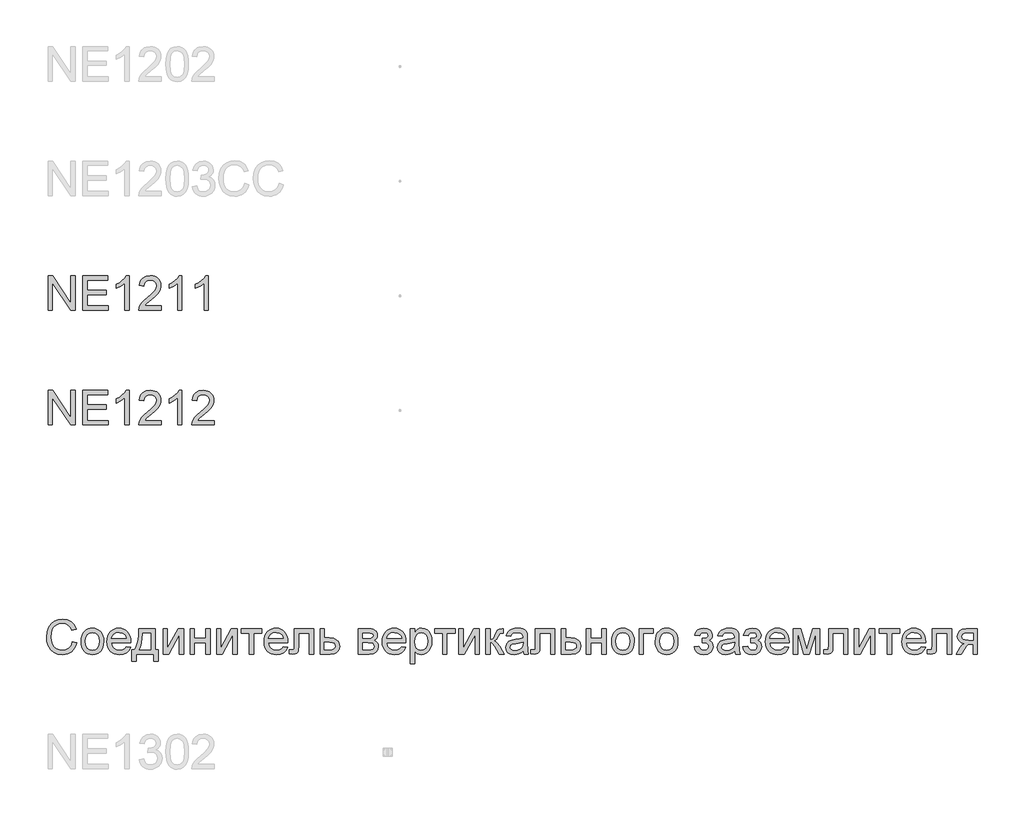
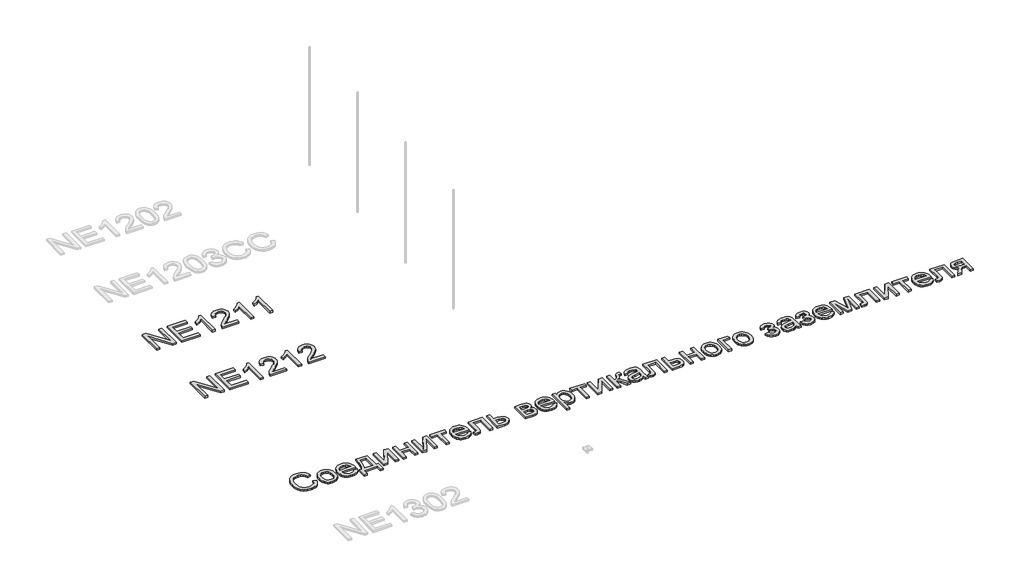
# One storey, part 50 of 124: 3 proxies.
"""IFC4 building model written with IfcOpenShell, lengths in millimetres."""

from ifc_helpers import new_model, si_unit, origin, origin_with_axes, place, context, project, spatial, polyline, outline, extrude, element, save

model = new_model("IFC4")

# Units and contexts
model_context = context("Model", 3, world=origin())
ifc_project = project(units=[si_unit("LENGTHUNIT", "METRE", prefix="MILLI")], contexts=[model_context])

# Site, building, storey
site = spatial("IfcSite", under=ifc_project)
building = spatial("IfcBuilding", under=site)
storey = spatial("IfcBuildingStorey", under=building, Name="Этаж 01", Elevation=0.0)

# Proxies
placement = place(None, origin())
element("IfcBuildingElementProxy", 1, Name="300", ObjectType="300", at=placement, inside=storey, context=model_context, shape_type="SweptSolid", body=[
    extrude(outline(polyline([(32939.8675381, -70074.498362), (32939.8675381, -69773.1294316), (32980.1874048, -69773.1294316), (33137.6408988, -70011.8848464), (33137.6408988, -69773.1294316), (33175.3120151, -69773.1294316), (33175.3120151, -70074.498362), (33134.9921484, -70074.498362), (32977.5386545, -69835.6693707), (32977.5386545, -70074.498362), (32939.8675381, -70074.498362)])), origin_with_axes(), (0.0, 0.0, 1.0), 20.0),
    extrude(outline(polyline([(33241.2364686, -70074.498362), (33241.2364686, -69773.1294316), (33457.8453874, -69773.1294316), (33457.8453874, -69810.8005479), (33278.9075849, -69810.8005479), (33278.9075849, -69900.2694491), (33448.4276083, -69900.2694491), (33448.4276083, -69937.9405654), (33278.9075849, -69937.9405654), (33278.9075849, -70036.8272457), (33462.5542769, -70036.8272457), (33462.5542769, -70074.498362), (33241.2364686, -70074.498362)])), origin_with_axes(), (0.0, 0.0, 1.0), 20.0),
    extrude(outline(polyline([(33646.2009689, -70074.498362), (33608.5298526, -70074.498362), (33608.5298526, -69839.6424963), (33572.8452991, -69865.0631421), (33533.18762, -69884.0826413), (33533.18762, -69848.4716642), (33562.7745294, -69832.3768269), (33588.4067074, -69813.228569), (33608.612626, -69792.8663006), (33621.9207572, -69773.1294316), (33646.2009689, -69773.1294316), (33646.2009689, -70074.498362)])), origin_with_axes(), (0.0, 0.0, 1.0), 20.0),
    extrude(outline(polyline([(33928.7343412, -70036.8272457), (33928.7343412, -70074.498362), (33730.9609806, -70074.498362), (33735.0076825, -70048.5258931), (33744.2967029, -70028.2280041), (33757.8899426, -70008.5371203), (33777.5532353, -69987.9265315), (33805.0524144, -69964.8695274), (33845.7033749, -69928.7619096), (33870.0939512, -69902.1088591), (33882.2892393, -69880.4773977), (33886.3543353, -69859.4345476), (33882.5191655, -69840.5713983), (33871.0136561, -69824.8904283), (33853.3277292, -69814.323018), (33830.9513069, -69810.8005479), (33807.4528444, -69814.2402445), (33789.1967004, -69824.5593345), (33777.4152795, -69840.9484774), (33773.3409864, -69862.5983328), (33735.6698701, -69857.8894432), (33744.8025406, -69821.4507316), (33753.3488992, -69806.9147943), (33764.5486067, -69794.8344693), (33778.1441457, -69785.3385153), (33793.8779988, -69778.555691), (33831.7606473, -69773.1294316), (33851.950471, -69774.6377477), (33869.9192072, -69779.1626963), (33885.6668559, -69786.7042772), (33899.193417, -69797.2624904), (33910.0574321, -69810.0555868), (33917.817443, -69824.3018171), (33922.4734495, -69840.0011812), (33924.0254516, -69857.1536793), (33922.3515886, -69875.1707), (33917.3299993, -69892.875021), (33908.418058, -69910.8828446), (33895.0731386, -69929.8103733), (33873.8003623, -69952.4075249), (33841.1048499, -69981.4242172), (33797.7683509, -70017.6605937), (33780.7722027, -70036.8272457), (33928.7343412, -70036.8272457)])), origin_with_axes(), (0.0, 0.0, 1.0), 20.0),
    extrude(outline(polyline([(34107.6721436, -70074.498362), (34070.0010273, -70074.498362), (34070.0010273, -69839.6424963), (34034.3164738, -69865.0631421), (33994.6587947, -69884.0826413), (33994.6587947, -69848.4716642), (34024.2457042, -69832.3768269), (34049.8778822, -69813.228569), (34070.0838008, -69792.8663006), (34083.391932, -69773.1294316), (34107.6721436, -69773.1294316), (34107.6721436, -70074.498362)])), origin_with_axes(), (0.0, 0.0, 1.0), 20.0),
    extrude(outline(polyline([(34338.407731, -70074.498362), (34300.7366147, -70074.498362), (34300.7366147, -69839.6424963), (34265.0520612, -69865.0631421), (34225.3943821, -69884.0826413), (34225.3943821, -69848.4716642), (34254.9812916, -69832.3768269), (34280.6134696, -69813.228569), (34300.8193882, -69792.8663006), (34314.1275193, -69773.1294316), (34338.407731, -69773.1294316), (34338.407731, -70074.498362)])), origin_with_axes(), (0.0, 0.0, 1.0), 20.0),
])
element("IfcBuildingElementProxy", 2, Name="300", ObjectType="300", at=placement, inside=storey, context=model_context, shape_type="SweptSolid", body=[
    extrude(outline(polyline([(32939.8675381, -71074.498362), (32939.8675381, -70773.1294316), (32980.1874048, -70773.1294316), (33137.6408988, -71011.8848464), (33137.6408988, -70773.1294316), (33175.3120151, -70773.1294316), (33175.3120151, -71074.498362), (33134.9921484, -71074.498362), (32977.5386545, -70835.6693707), (32977.5386545, -71074.498362), (32939.8675381, -71074.498362)])), origin_with_axes(), (0.0, 0.0, 1.0), 20.0),
    extrude(outline(polyline([(33241.2364686, -71074.498362), (33241.2364686, -70773.1294316), (33457.8453874, -70773.1294316), (33457.8453874, -70810.8005479), (33278.9075849, -70810.8005479), (33278.9075849, -70900.2694491), (33448.4276083, -70900.2694491), (33448.4276083, -70937.9405654), (33278.9075849, -70937.9405654), (33278.9075849, -71036.8272457), (33462.5542769, -71036.8272457), (33462.5542769, -71074.498362), (33241.2364686, -71074.498362)])), origin_with_axes(), (0.0, 0.0, 1.0), 20.0),
    extrude(outline(polyline([(33646.2009689, -71074.498362), (33608.5298526, -71074.498362), (33608.5298526, -70839.6424963), (33572.8452991, -70865.0631421), (33533.18762, -70884.0826413), (33533.18762, -70848.4716642), (33562.7745294, -70832.3768269), (33588.4067074, -70813.228569), (33608.612626, -70792.8663006), (33621.9207572, -70773.1294316), (33646.2009689, -70773.1294316), (33646.2009689, -71074.498362)])), origin_with_axes(), (0.0, 0.0, 1.0), 20.0),
    extrude(outline(polyline([(33928.7343412, -71036.8272457), (33928.7343412, -71074.498362), (33730.9609806, -71074.498362), (33735.0076825, -71048.5258931), (33744.2967029, -71028.2280041), (33757.8899426, -71008.5371203), (33777.5532353, -70987.9265315), (33805.0524144, -70964.8695274), (33845.7033749, -70928.7619096), (33870.0939512, -70902.1088591), (33882.2892393, -70880.4773977), (33886.3543353, -70859.4345476), (33882.5191655, -70840.5713983), (33871.0136561, -70824.8904283), (33853.3277292, -70814.323018), (33830.9513069, -70810.8005479), (33807.4528444, -70814.2402445), (33789.1967004, -70824.5593345), (33777.4152795, -70840.9484774), (33773.3409864, -70862.5983328), (33735.6698701, -70857.8894432), (33744.8025406, -70821.4507316), (33753.3488992, -70806.9147943), (33764.5486067, -70794.8344693), (33778.1441457, -70785.3385153), (33793.8779988, -70778.555691), (33831.7606473, -70773.1294316), (33851.950471, -70774.6377477), (33869.9192072, -70779.1626963), (33885.6668559, -70786.7042772), (33899.193417, -70797.2624904), (33910.0574321, -70810.0555868), (33917.817443, -70824.3018171), (33922.4734495, -70840.0011812), (33924.0254516, -70857.1536793), (33922.3515886, -70875.1707), (33917.3299993, -70892.875021), (33908.418058, -70910.8828446), (33895.0731386, -70929.8103733), (33873.8003623, -70952.4075249), (33841.1048499, -70981.4242172), (33797.7683509, -71017.6605937), (33780.7722027, -71036.8272457), (33928.7343412, -71036.8272457)])), origin_with_axes(), (0.0, 0.0, 1.0), 20.0),
    extrude(outline(polyline([(34107.6721436, -71074.498362), (34070.0010273, -71074.498362), (34070.0010273, -70839.6424963), (34034.3164738, -70865.0631421), (33994.6587947, -70884.0826413), (33994.6587947, -70848.4716642), (34024.2457042, -70832.3768269), (34049.8778822, -70813.228569), (34070.0838008, -70792.8663006), (34083.391932, -70773.1294316), (34107.6721436, -70773.1294316), (34107.6721436, -71074.498362)])), origin_with_axes(), (0.0, 0.0, 1.0), 20.0),
    extrude(outline(polyline([(34390.2055159, -71036.8272457), (34390.2055159, -71074.498362), (34192.4321553, -71074.498362), (34196.4788573, -71048.5258931), (34205.7678777, -71028.2280041), (34219.3611174, -71008.5371203), (34239.02441, -70987.9265315), (34266.5235892, -70964.8695274), (34307.1745496, -70928.7619096), (34331.5651259, -70902.1088591), (34343.760414, -70880.4773977), (34347.8255101, -70859.4345476), (34343.9903403, -70840.5713983), (34332.4848309, -70824.8904283), (34314.798904, -70814.323018), (34292.4224816, -70810.8005479), (34268.9240192, -70814.2402445), (34250.6678752, -70824.5593345), (34238.8864543, -70840.9484774), (34234.8121612, -70862.5983328), (34197.1410449, -70857.8894432), (34206.2737154, -70821.4507316), (34214.820074, -70806.9147943), (34226.0197815, -70794.8344693), (34239.6153205, -70785.3385153), (34255.3491736, -70778.555691), (34293.231822, -70773.1294316), (34313.4216458, -70774.6377477), (34331.390382, -70779.1626963), (34347.1380306, -70786.7042772), (34360.6645917, -70797.2624904), (34371.5286069, -70810.0555868), (34379.2886177, -70824.3018171), (34383.9446242, -70840.0011812), (34385.4966264, -70857.1536793), (34383.8227633, -70875.1707), (34378.8011741, -70892.875021), (34369.8892328, -70910.8828446), (34356.5443134, -70929.8103733), (34335.271537, -70952.4075249), (34302.5760247, -70981.4242172), (34259.2395257, -71017.6605937), (34242.2433775, -71036.8272457), (34390.2055159, -71036.8272457)])), origin_with_axes(), (0.0, 0.0, 1.0), 20.0),
])
element("IfcBuildingElementProxy", 3, Name="300", ObjectType="300", at=placement, inside=storey, context=model_context, shape_type="SweptSolid", body=[
    extrude(outline(polyline([(33151.7675674, -72967.371125), (33189.4386837, -72977.0832097), (33181.9844747, -73000.510395), (33172.0562594, -73020.9807288), (33159.6540376, -73038.494211), (33144.7778095, -73053.0508417), (33127.7632672, -73064.494271), (33108.9461031, -73072.6681491), (33088.3263173, -73077.5724759), (33065.9039097, -73079.2072515), (33022.2087257, -73074.2592387), (32987.5082565, -73059.4152002), (32960.9103883, -73035.1901708), (32941.5230071, -73002.0991854), (32929.6864039, -72963.1956644), (32925.7408695, -72921.5330284), (32930.2014387, -72877.5895241), (32943.5831463, -72839.6424963), (32965.1870165, -72808.8967585), (32994.3140734, -72786.5571244), (33028.8581928, -72772.9546876), (33066.7132501, -72768.420542), (33108.0172011, -72774.2882598), (33125.9859373, -72781.6229071), (33142.1658473, -72791.8914133), (33156.2902166, -72804.8224654), (33168.0923309, -72820.1447505), (33184.7297941, -72857.9630196), (33147.0586778, -72866.9393403), (33133.998867, -72839.4677523), (33116.1565902, -72820.6229971), (33093.3111183, -72809.724493), (33065.2417221, -72806.0916583), (33032.8865006, -72810.1199662), (33006.3070265, -72822.2048897), (32986.1378961, -72841.0772361), (32973.0137059, -72865.4678123), (32965.8124159, -72893.0405679), (32963.4119858, -72921.459452), (32966.2538743, -72956.2610888), (32974.7795395, -72986.353836), (32989.3108783, -73010.5880624), (33010.1697874, -73027.8141368), (33035.176566, -73038.1056356), (33062.1515133, -73041.5361352), (33093.5962269, -73036.8640339), (33119.798622, -73022.8477299), (33139.5814763, -72999.634376), (33151.7675674, -72967.371125)])), origin_with_axes(), (0.0, 0.0, 1.0), 20.0),
    extrude(outline(polyline([(33227.1098, -72963.8394579), (33229.1469465, -72935.1768519), (33235.2583862, -72910.4781745), (33245.4441189, -72889.7434255), (33259.7041448, -72872.972605), (33274.0607396, -72862.2534434), (33289.9072566, -72854.5968994), (33307.2436956, -72850.002973), (33326.0700567, -72848.4716642), (33346.8530902, -72850.336366), (33365.6449623, -72855.9304716), (33382.4456732, -72865.2539809), (33397.2552228, -72878.306894), (33409.3424456, -72894.6477523), (33417.9761761, -72913.8350977), (33423.1564145, -72935.8689299), (33424.8831606, -72960.7492491), (33421.82974, -72998.8066415), (33412.6694784, -73027.7773486), (33397.66909, -73049.4731893), (33377.0952894, -73065.7059823), (33352.6587279, -73075.8319342), (33326.0700567, -73079.2072515), (33304.9835206, -73077.3494475), (33286.0169045, -73071.7760352), (33269.1702083, -73062.4870149), (33254.4434322, -73049.4823863), (33242.4849681, -73032.9828788), (33233.943208, -73013.2092216), (33228.818152, -72990.1614146), (33227.1098, -72963.8394579)]), holes=[polyline([(33264.7809163, -72963.7658815), (33269.1403179, -72997.8593454), (33282.2185229, -73022.1487541), (33301.9002096, -73036.6892899), (33326.0700567, -73041.5361352), (33350.1295392, -73036.6616988), (33369.7744377, -73022.0383895), (33382.8526426, -72997.427084), (33387.2120443, -72962.5886591), (33382.8250515, -72929.4884766), (33369.6640731, -72905.5301616), (33349.9915834, -72890.9896258), (33326.0700567, -72886.1427805), (33301.9002096, -72890.9712317), (33282.2185229, -72905.4565852), (33269.1403179, -72929.6908117), (33264.7809163, -72963.7658815)])]), origin_with_axes(), (0.0, 0.0, 1.0), 20.0),
    extrude(outline(polyline([(33622.2150628, -73008.5739085), (33659.1504151, -73013.282798), (33645.8422839, -73041.1130709), (33624.6062958, -73061.9167978), (33595.9206972, -73074.8846381), (33560.2637348, -73079.2072515), (33536.8894325, -73077.3425497), (33516.0627131, -73071.7484441), (33497.7835765, -73062.4249348), (33482.0520226, -73049.3720217), (33469.4014805, -73032.9529884), (33460.365379, -73013.5311184), (33454.9437181, -72991.1064115), (33453.1364978, -72965.6788678), (33454.9621122, -72939.3891007), (33460.4389554, -72916.2171336), (33469.5670274, -72896.1629663), (33482.3463282, -72879.226599), (33498.0364953, -72865.771315), (33515.8971662, -72856.1603979), (33535.9283408, -72850.3938476), (33558.1300192, -72848.4716642), (33579.616627, -72850.3892491), (33599.0476942, -72856.1420038), (33616.4232206, -72865.7299283), (33631.7432065, -72879.1530226), (33644.2488951, -72896.0526017), (33653.1815297, -72916.0699808), (33658.5411106, -72939.2051598), (33660.3276375, -72965.4581386), (33660.1069083, -72975.6116817), (33490.8076141, -72975.6116817), (33497.3283225, -73003.8098366), (33512.4758636, -73024.5399871), (33534.3372512, -73037.2870982), (33560.9994988, -73041.5361352), (33581.0490675, -73039.5679666), (33597.9348511, -73033.6634605), (33611.6568495, -73023.4547352), (33622.2150628, -73008.5739085)]), holes=[polyline([(33490.8076141, -72937.9405654), (33622.6565212, -72937.9405654), (33617.5613556, -72918.0381495), (33607.5733594, -72903.8011162), (33585.6108043, -72890.5573644), (33557.9828664, -72886.1427805), (33532.5898117, -72889.6652506), (33511.5929469, -72900.2326609), (33496.9972287, -72916.7045772), (33490.8076141, -72937.9405654)])]), origin_with_axes(), (0.0, 0.0, 1.0), 20.0),
    extrude(outline(polyline([(33730.9609806, -72853.1805537), (33872.2276667, -72853.1805537), (33872.2276667, -73036.8272457), (33900.481004, -73036.8272457), (33900.481004, -73135.713926), (33862.8098876, -73135.713926), (33862.8098876, -73074.498362), (33707.4165329, -73074.498362), (33707.4165329, -73135.713926), (33669.7454166, -73135.713926), (33669.7454166, -73036.8272457), (33693.2898643, -73036.8272457), (33710.4055741, -73005.897567), (33722.3893301, -72964.979892), (33729.2411322, -72914.074221), (33730.9609806, -72853.1805537)]), holes=[polyline([(33763.9232073, -72890.85167), (33760.8329986, -72936.9748752), (33755.0940395, -72976.6785395), (33746.70633, -73009.962663), (33735.6698701, -73036.8272457), (33834.5565504, -73036.8272457), (33834.5565504, -72890.85167), (33763.9232073, -72890.85167)])]), origin_with_axes(), (0.0, 0.0, 1.0), 20.0),
    extrude(outline(polyline([(33942.8610098, -72853.1805537), (33980.5321261, -72853.1805537), (33980.5321261, -73021.9648131), (34073.0912361, -72853.1805537), (34121.7988123, -72853.1805537), (34121.7988123, -73074.498362), (34084.1276959, -73074.498362), (34084.1276959, -72906.7441722), (33992.1571972, -73074.498362), (33942.8610098, -73074.498362), (33942.8610098, -72853.1805537)])), origin_with_axes(), (0.0, 0.0, 1.0), 20.0),
    extrude(outline(polyline([(34178.3054867, -72853.1805537), (34215.976603, -72853.1805537), (34215.976603, -72937.9405654), (34314.8632833, -72937.9405654), (34314.8632833, -72853.1805537), (34352.5343996, -72853.1805537), (34352.5343996, -73074.498362), (34314.8632833, -73074.498362), (34314.8632833, -72975.6116817), (34215.976603, -72975.6116817), (34215.976603, -73074.498362), (34178.3054867, -73074.498362), (34178.3054867, -72853.1805537)])), origin_with_axes(), (0.0, 0.0, 1.0), 20.0),
    extrude(outline(polyline([(34409.0410741, -72853.1805537), (34446.7121904, -72853.1805537), (34446.7121904, -73021.9648131), (34539.2713004, -72853.1805537), (34587.9788765, -72853.1805537), (34587.9788765, -73074.498362), (34550.3077602, -73074.498362), (34550.3077602, -72906.7441722), (34458.3372614, -73074.498362), (34409.0410741, -73074.498362), (34409.0410741, -72853.1805537)])), origin_with_axes(), (0.0, 0.0, 1.0), 20.0),
    extrude(outline(polyline([(34625.6499928, -72853.1805537), (34804.5877953, -72853.1805537), (34804.5877953, -72890.85167), (34733.9544522, -72890.85167), (34733.9544522, -73074.498362), (34696.2833359, -73074.498362), (34696.2833359, -72890.85167), (34625.6499928, -72890.85167), (34625.6499928, -72853.1805537)])), origin_with_axes(), (0.0, 0.0, 1.0), 20.0),
    extrude(outline(polyline([(34992.5019184, -73008.5739085), (35029.4372708, -73013.282798), (35016.1291396, -73041.1130709), (34994.8931514, -73061.9167978), (34966.2075528, -73074.8846381), (34930.5505904, -73079.2072515), (34907.1762882, -73077.3425497), (34886.3495687, -73071.7484441), (34868.0704321, -73062.4249348), (34852.3388783, -73049.3720217), (34839.6883362, -73032.9529884), (34830.6522347, -73013.5311184), (34825.2305738, -72991.1064115), (34823.4233535, -72965.6788678), (34825.2489679, -72939.3891007), (34830.7258111, -72916.2171336), (34839.8538831, -72896.1629663), (34852.6331839, -72879.226599), (34868.323351, -72865.771315), (34886.1840218, -72856.1603979), (34906.2151965, -72850.3938476), (34928.4168749, -72848.4716642), (34949.9034827, -72850.3892491), (34969.3345498, -72856.1420038), (34986.7100763, -72865.7299283), (35002.0300621, -72879.1530226), (35014.5357507, -72896.0526017), (35023.4683854, -72916.0699808), (35028.8279662, -72939.2051598), (35030.6144931, -72965.4581386), (35030.3937639, -72975.6116817), (34861.0944698, -72975.6116817), (34867.6151781, -73003.8098366), (34882.7627193, -73024.5399871), (34904.6241068, -73037.2870982), (34931.2863544, -73041.5361352), (34951.3359232, -73039.5679666), (34968.2217068, -73033.6634605), (34981.9437052, -73023.4547352), (34992.5019184, -73008.5739085)]), holes=[polyline([(34861.0944698, -72937.9405654), (34992.9433768, -72937.9405654), (34987.8482112, -72918.0381495), (34977.860215, -72903.8011162), (34955.8976599, -72890.5573644), (34928.2697221, -72886.1427805), (34902.8766674, -72889.6652506), (34881.8798025, -72900.2326609), (34867.2840843, -72916.7045772), (34861.0944698, -72937.9405654)])]), origin_with_axes(), (0.0, 0.0, 1.0), 20.0),
    extrude(outline(polyline([(35087.1211676, -72853.1805537), (35256.641191, -72853.1805537), (35256.641191, -73074.2776328), (35218.9700747, -73074.2776328), (35218.9700747, -72890.85167), (35124.7922839, -72890.85167), (35124.7922839, -72996.4338026), (35122.2538981, -73045.1413788), (35117.4990233, -73056.1686416), (35108.3111705, -73065.7059823), (35094.3684429, -73072.3002671), (35075.3489438, -73074.498362), (35044.7411618, -73072.5853756), (35044.7411618, -73036.8272457), (35061.5901571, -73036.8272457), (35078.6230935, -73034.5095891), (35085.4289104, -73027.1519492), (35087.1211676, -72994.3000871), (35087.1211676, -72853.1805537)])), origin_with_axes(), (0.0, 0.0, 1.0), 20.0),
    extrude(outline(polyline([(35313.1478654, -72853.1805537), (35350.8189817, -72853.1805537), (35350.8189817, -72933.2316759), (35394.2290572, -72933.2316759), (35431.8633853, -72937.9497624), (35447.0109264, -72943.8473707), (35459.7120523, -72952.1040222), (35469.7552308, -72962.4346085), (35476.9289297, -72974.554021), (35482.6678888, -73004.1593245), (35477.7842553, -73031.1158777), (35463.1333549, -73053.8601821), (35451.9014577, -73062.8893858), (35437.7403002, -73069.338817), (35400.6302039, -73074.498362), (35313.1478654, -73074.498362), (35313.1478654, -72853.1805537)]), holes=[polyline([(35350.8189817, -73036.8272457), (35385.9885005, -73036.8272457), (35413.2761475, -73034.84988), (35431.4219269, -73028.9177828), (35441.6030611, -73018.7918309), (35444.9967725, -73004.2329009), (35442.4859779, -72991.9272482), (35434.953594, -72981.0563352), (35418.8127715, -72973.4411779), (35390.4766608, -72970.9027922), (35350.8189817, -72970.9027922), (35350.8189817, -73036.8272457)])]), origin_with_axes(), (0.0, 0.0, 1.0), 20.0),
    extrude(outline(polyline([(35647.4790227, -72853.1805537), (35730.4732008, -72853.1805537), (35757.1538425, -72854.4405495), (35775.9802036, -72858.220537), (35789.8309607, -72865.3574477), (35801.5847904, -72876.6882132), (35809.613815, -72891.4494783), (35812.2901565, -72908.8778878), (35810.6714757, -72922.9217829), (35805.8154334, -72935.0342976), (35797.7036354, -72945.2706141), (35786.3176876, -72953.6859148), (35800.2604152, -72961.5126042), (35811.6279689, -72974.1033655), (35819.1879439, -72990.4649173), (35821.7079356, -73009.6039781), (35815.3251829, -73038.3171678), (35800.1500506, -73058.5322834), (35776.1273564, -73070.5068424), (35743.2019178, -73074.498362), (35647.4790227, -73074.498362), (35647.4790227, -72853.1805537)]), holes=[polyline([(35685.150139, -72937.9405654), (35722.3797969, -72937.9405654), (35753.0979435, -72936.027579), (35768.0339525, -72928.3756335), (35772.9727683, -72922.0480632), (35774.6190402, -72914.5432705), (35771.7311665, -72903.3044755), (35763.0675455, -72896.0755943), (35747.4141666, -72892.1576511), (35723.5570193, -72890.85167), (35685.150139, -72890.85167), (35685.150139, -72937.9405654)]), polyline([(35685.150139, -73036.8272457), (35731.3561176, -73036.8272457), (35756.5376401, -73035.1257915), (35772.3381718, -73030.0214288), (35780.8178518, -73020.7416055), (35784.0368193, -73006.5137693), (35782.4273355, -72997.0867932), (35777.5988843, -72988.3771869), (35770.1860621, -72981.562173), (35760.8234654, -72977.8189737), (35727.6772976, -72975.6116817), (35685.150139, -72975.6116817), (35685.150139, -73036.8272457)])]), origin_with_axes(), (0.0, 0.0, 1.0), 20.0),
    extrude(outline(polyline([(36023.7487273, -73008.5739085), (36060.6840796, -73013.282798), (36047.3759485, -73041.1130709), (36026.1399603, -73061.9167978), (35997.4543617, -73074.8846381), (35961.7973993, -73079.2072515), (35938.4230971, -73077.3425497), (35917.5963776, -73071.7484441), (35899.317241, -73062.4249348), (35883.5856872, -73049.3720217), (35870.935145, -73032.9529884), (35861.8990435, -73013.5311184), (35856.4773826, -72991.1064115), (35854.6701623, -72965.6788678), (35856.4957767, -72939.3891007), (35861.9726199, -72916.2171336), (35871.1006919, -72896.1629663), (35883.8799928, -72879.226599), (35899.5701598, -72865.771315), (35917.4308307, -72856.1603979), (35937.4620053, -72850.3938476), (35959.6636838, -72848.4716642), (35981.1502915, -72850.3892491), (36000.5813587, -72856.1420038), (36017.9568852, -72865.7299283), (36033.276871, -72879.1530226), (36045.7825596, -72896.0526017), (36054.7151943, -72916.0699808), (36060.0747751, -72939.2051598), (36061.861302, -72965.4581386), (36061.6405728, -72975.6116817), (35892.3412786, -72975.6116817), (35898.861987, -73003.8098366), (35914.0095282, -73024.5399871), (35935.8709157, -73037.2870982), (35962.5331633, -73041.5361352), (35982.5827321, -73039.5679666), (35999.4685156, -73033.6634605), (36013.1905141, -73023.4547352), (36023.7487273, -73008.5739085)]), holes=[polyline([(35892.3412786, -72937.9405654), (36024.1901857, -72937.9405654), (36019.0950201, -72918.0381495), (36009.1070239, -72903.8011162), (35987.1444688, -72890.5573644), (35959.516531, -72886.1427805), (35934.1234762, -72889.6652506), (35913.1266114, -72900.2326609), (35898.5308932, -72916.7045772), (35892.3412786, -72937.9405654)])]), origin_with_axes(), (0.0, 0.0, 1.0), 20.0),
    extrude(outline(polyline([(36099.5324183, -73159.2583737), (36099.5324183, -72853.1805537), (36137.2035346, -72853.1805537), (36137.2035346, -72890.115906), (36149.4907933, -72871.8965502), (36163.2495799, -72858.8827246), (36179.2892349, -72851.0744293), (36198.4190986, -72848.4716642), (36223.8949268, -72852.1136959), (36246.1701816, -72863.0397912), (36264.306764, -72880.5877623), (36277.3665748, -72904.0954218), (36285.2576436, -72931.8521184), (36287.8879999, -72962.1472007), (36284.9173527, -72994.3644664), (36276.0054114, -73023.1788237), (36261.4372844, -73047.1279416), (36241.4980803, -73064.7494891), (36218.2755293, -73075.5928109), (36193.8573619, -73079.2072515), (36176.539317, -73076.7884274), (36161.0790761, -73069.5319551), (36147.8445213, -73058.5782687), (36137.2035346, -73045.0678024), (36137.2035346, -73159.2583737), (36099.5324183, -73159.2583737)]), holes=[polyline([(36137.2035346, -72965.6052914), (36141.2778277, -72999.3768586), (36153.500707, -73022.9948827), (36171.5361218, -73036.9008221), (36193.0480215, -73041.5361352), (36214.9094091, -73036.7352752), (36233.4046764, -73022.3326951), (36246.0138318, -72997.8501483), (36250.2168835, -72962.8093883), (36246.1149993, -72929.2217621), (36233.8093466, -72905.2726442), (36215.8015229, -72890.9252464), (36194.5931259, -72886.1427805), (36173.3019554, -72891.2287491), (36154.604353, -72906.4866548), (36141.5537392, -72931.4382511), (36137.2035346, -72965.6052914)])]), origin_with_axes(), (0.0, 0.0, 1.0), 20.0),
    extrude(outline(polyline([(36311.4324475, -72853.1805537), (36490.37025, -72853.1805537), (36490.37025, -72890.85167), (36419.7369069, -72890.85167), (36419.7369069, -73074.498362), (36382.0657906, -73074.498362), (36382.0657906, -72890.85167), (36311.4324475, -72890.85167), (36311.4324475, -72853.1805537)])), origin_with_axes(), (0.0, 0.0, 1.0), 20.0),
    extrude(outline(polyline([(36523.3324768, -72853.1805537), (36561.0035931, -72853.1805537), (36561.0035931, -73021.9648131), (36653.5627031, -72853.1805537), (36702.2702792, -72853.1805537), (36702.2702792, -73074.498362), (36664.5991629, -73074.498362), (36664.5991629, -72906.7441722), (36572.6286641, -73074.498362), (36523.3324768, -73074.498362), (36523.3324768, -72853.1805537)])), origin_with_axes(), (0.0, 0.0, 1.0), 20.0),
    extrude(outline(polyline([(36758.7769537, -72853.1805537), (36796.44807, -72853.1805537), (36796.44807, -72947.3583445), (36811.7703551, -72945.6660873), (36821.6847749, -72940.5893158), (36830.4587604, -72927.3455639), (36842.359743, -72901.1523659), (36859.5398322, -72867.1232813), (36874.6965704, -72856.0500333), (36902.2509318, -72853.1805537), (36909.4614189, -72853.1805537), (36909.4614189, -72891.0723992), (36899.3078758, -72890.85167), (36880.9137761, -72894.8247956), (36867.9643298, -72919.620042), (36852.7708034, -72946.4386395), (36831.4704359, -72959.5720267), (36843.4082067, -72964.874126), (36855.2356128, -72974.2321242), (36878.5593313, -73005.1158177), (36918.879198, -73074.498362), (36876.0577337, -73074.498362), (36836.5472075, -73006.5873457), (36816.6815797, -72977.8557619), (36807.3925593, -72972.6410346), (36796.44807, -72970.9027922), (36796.44807, -73074.498362), (36758.7769537, -73074.498362), (36758.7769537, -72853.1805537)])), origin_with_axes(), (0.0, 0.0, 1.0), 20.0),
    extrude(outline(polyline([(37083.6903318, -73046.2450248), (37065.6917052, -73061.6776745), (37047.1596497, -73071.7760352), (37027.671101, -73077.3494475), (37006.8029948, -73079.2072515), (36975.3214931, -73074.7374853), (36952.0989421, -73061.3281866), (36937.7791355, -73040.9659181), (36933.0058666, -73015.6372428), (36934.8084884, -73000.0206521), (36940.2163537, -72985.8388012), (36948.5580779, -72973.6986953), (36959.1622765, -72964.2073398), (36985.5394155, -72951.8465048), (37018.1337603, -72946.1811221), (37056.6510052, -72940.2214338), (37083.4696026, -72933.2316759), (37083.6903318, -72924.8439664), (37081.0967638, -72908.0317592), (37073.3160596, -72897.0320875), (37055.9152412, -72888.8651072), (37031.6718177, -72886.1427805), (37009.231016, -72887.9545993), (36993.559243, -72893.3900558), (36982.872271, -72903.4424313), (36975.3858724, -72919.1050072), (36937.7147561, -72914.3961177), (36944.2538586, -72893.794726), (36954.0119285, -72877.6079182), (36967.8994738, -72865.228689), (36986.8270025, -72856.0500333), (37009.975977, -72850.3662564), (37036.52786, -72848.4716642), (37061.9944912, -72850.1455272), (37082.1820156, -72855.1671165), (37097.4031332, -72862.7178944), (37107.9705435, -72871.9793237), (37114.9786955, -72883.4296508), (37119.5220382, -72897.5471223), (37121.3614481, -72930.5093491), (37121.3614481, -72977.3775153), (37123.2744345, -73042.8237222), (37130.7792272, -73074.498362), (37093.1081109, -73074.498362), (37083.6903318, -73046.2450248)]), holes=[polyline([(37083.6903318, -72970.9027922), (37022.9162262, -72982.4542868), (36990.5058224, -72988.5611279), (36975.8273308, -72998.4939418), (36970.6769829, -73012.9884924), (36973.4820831, -73024.1904992), (36981.8973838, -73033.3691549), (36995.7389438, -73039.4943902), (37014.8228223, -73041.5361352), (37035.0563321, -73039.282858), (37052.935397, -73032.5230264), (37067.4299476, -73022.5626213), (37077.5099143, -73010.707624), (37081.9796805, -72998.4939418), (37083.4696026, -72981.57137), (37083.6903318, -72970.9027922)])]), origin_with_axes(), (0.0, 0.0, 1.0), 20.0),
    extrude(outline(polyline([(37191.9947912, -72853.1805537), (37361.5148146, -72853.1805537), (37361.5148146, -73074.2776328), (37323.8436983, -73074.2776328), (37323.8436983, -72890.85167), (37229.6659075, -72890.85167), (37229.6659075, -72996.4338026), (37227.1275217, -73045.1413788), (37222.372647, -73056.1686416), (37213.1847941, -73065.7059823), (37199.2420665, -73072.3002671), (37180.2225674, -73074.498362), (37149.6147854, -73072.5853756), (37149.6147854, -73036.8272457), (37166.4637807, -73036.8272457), (37183.4967171, -73034.5095891), (37190.302534, -73027.1519492), (37191.9947912, -72994.3000871), (37191.9947912, -72853.1805537)])), origin_with_axes(), (0.0, 0.0, 1.0), 20.0),
    extrude(outline(polyline([(37418.021489, -72853.1805537), (37455.6926053, -72853.1805537), (37455.6926053, -72933.2316759), (37499.1026808, -72933.2316759), (37536.7370089, -72937.9497624), (37551.88455, -72943.8473707), (37564.5856759, -72952.1040222), (37574.6288544, -72962.4346085), (37581.8025533, -72974.554021), (37587.5415124, -73004.1593245), (37582.6578789, -73031.1158777), (37568.0069785, -73053.8601821), (37556.7750813, -73062.8893858), (37542.6139238, -73069.338817), (37505.5038275, -73074.498362), (37418.021489, -73074.498362), (37418.021489, -72853.1805537)]), holes=[polyline([(37455.6926053, -73036.8272457), (37490.8621241, -73036.8272457), (37518.1497711, -73034.84988), (37536.2955505, -73028.9177828), (37546.4766847, -73018.7918309), (37549.8703961, -73004.2329009), (37547.3596015, -72991.9272482), (37539.8272176, -72981.0563352), (37523.6863951, -72973.4411779), (37495.3502844, -72970.9027922), (37455.6926053, -72970.9027922), (37455.6926053, -73036.8272457)])]), origin_with_axes(), (0.0, 0.0, 1.0), 20.0),
    extrude(outline(polyline([(37634.6304078, -72853.1805537), (37672.3015241, -72853.1805537), (37672.3015241, -72937.9405654), (37771.1882044, -72937.9405654), (37771.1882044, -72853.1805537), (37808.8593207, -72853.1805537), (37808.8593207, -73074.498362), (37771.1882044, -73074.498362), (37771.1882044, -72975.6116817), (37672.3015241, -72975.6116817), (37672.3015241, -73074.498362), (37634.6304078, -73074.498362), (37634.6304078, -72853.1805537)])), origin_with_axes(), (0.0, 0.0, 1.0), 20.0),
    extrude(outline(polyline([(37855.9482161, -72963.8394579), (37857.9853626, -72935.1768519), (37864.0968023, -72910.4781745), (37874.282535, -72889.7434255), (37888.5425609, -72872.972605), (37902.8991557, -72862.2534434), (37918.7456727, -72854.5968994), (37936.0821117, -72850.002973), (37954.9084728, -72848.4716642), (37975.6915063, -72850.336366), (37994.4833784, -72855.9304716), (38011.2840893, -72865.2539809), (38026.0936389, -72878.306894), (38038.1808617, -72894.6477523), (38046.8145922, -72913.8350977), (38051.9948306, -72935.8689299), (38053.7215767, -72960.7492491), (38050.6681561, -72998.8066415), (38041.5078945, -73027.7773486), (38026.5075061, -73049.4731893), (38005.9337055, -73065.7059823), (37981.497144, -73075.8319342), (37954.9084728, -73079.2072515), (37933.8219367, -73077.3494475), (37914.8553206, -73071.7760352), (37898.0086245, -73062.4870149), (37883.2818483, -73049.4823863), (37871.3233842, -73032.9828788), (37862.7816242, -73013.2092216), (37857.6565681, -72990.1614146), (37855.9482161, -72963.8394579)]), holes=[polyline([(37893.6193324, -72963.7658815), (37897.978734, -72997.8593454), (37911.056939, -73022.1487541), (37930.7386257, -73036.6892899), (37954.9084728, -73041.5361352), (37978.9679553, -73036.6616988), (37998.6128538, -73022.0383895), (38011.6910588, -72997.427084), (38016.0504604, -72962.5886591), (38011.6634676, -72929.4884766), (37998.5024892, -72905.5301616), (37978.8299995, -72890.9896258), (37954.9084728, -72886.1427805), (37930.7386257, -72890.9712317), (37911.056939, -72905.4565852), (37897.978734, -72929.6908117), (37893.6193324, -72963.7658815)])]), origin_with_axes(), (0.0, 0.0, 1.0), 20.0),
    extrude(outline(polyline([(38096.1015825, -72853.1805537), (38218.5327105, -72853.1805537), (38218.5327105, -72890.85167), (38133.7726989, -72890.85167), (38133.7726989, -73074.498362), (38096.1015825, -73074.498362), (38096.1015825, -72853.1805537)])), origin_with_axes(), (0.0, 0.0, 1.0), 20.0),
    extrude(outline(polyline([(38237.3682687, -72963.8394579), (38239.4054152, -72935.1768519), (38245.5168549, -72910.4781745), (38255.7025876, -72889.7434255), (38269.9626135, -72872.972605), (38284.3192083, -72862.2534434), (38300.1657253, -72854.5968994), (38317.5021643, -72850.002973), (38336.3285254, -72848.4716642), (38357.1115589, -72850.336366), (38375.903431, -72855.9304716), (38392.7041419, -72865.2539809), (38407.5136915, -72878.306894), (38419.6009143, -72894.6477523), (38428.2346448, -72913.8350977), (38433.4148832, -72935.8689299), (38435.1416293, -72960.7492491), (38432.0882087, -72998.8066415), (38422.9279471, -73027.7773486), (38407.9275587, -73049.4731893), (38387.3537581, -73065.7059823), (38362.9171966, -73075.8319342), (38336.3285254, -73079.2072515), (38315.2419893, -73077.3494475), (38296.2753732, -73071.7760352), (38279.4286771, -73062.4870149), (38264.7019009, -73049.4823863), (38252.7434368, -73032.9828788), (38244.2016768, -73013.2092216), (38239.0766207, -72990.1614146), (38237.3682687, -72963.8394579)]), holes=[polyline([(38275.039385, -72963.7658815), (38279.3987866, -72997.8593454), (38292.4769916, -73022.1487541), (38312.1586783, -73036.6892899), (38336.3285254, -73041.5361352), (38360.3880079, -73036.6616988), (38380.0329064, -73022.0383895), (38393.1111114, -72997.427084), (38397.470513, -72962.5886591), (38393.0835202, -72929.4884766), (38379.9225418, -72905.5301616), (38360.2500521, -72890.9896258), (38336.3285254, -72886.1427805), (38312.1586783, -72890.9712317), (38292.4769916, -72905.4565852), (38279.3987866, -72929.6908117), (38275.039385, -72963.7658815)])]), origin_with_axes(), (0.0, 0.0, 1.0), 20.0),
    extrude(outline(polyline([(38647.0416585, -72975.6116817), (38647.0416585, -72937.9405654), (38676.7665237, -72936.4690374), (38691.7761091, -72928.6331509), (38697.0736099, -72921.2847081), (38698.8394434, -72912.2624021), (38696.4758016, -72901.547839), (38689.3848762, -72893.242903), (38678.5599485, -72887.9178111), (38664.9942999, -72886.1427805), (38651.2814985, -72887.908614), (38639.7943832, -72893.2061148), (38630.532954, -72902.0352827), (38623.4972108, -72914.3961177), (38581.117205, -72909.6872282), (38592.3559999, -72882.9054189), (38609.4441186, -72863.7755552), (38632.381561, -72852.2976369), (38661.1683271, -72848.4716642), (38692.6590259, -72853.1345685), (38716.4977792, -72867.1232813), (38731.5073646, -72887.5867173), (38736.5105598, -72911.6737909), (38734.7309306, -72924.034626), (38729.3920431, -72935.0710858), (38720.4938974, -72944.7831705), (38708.0364933, -72953.17088), (38722.5770292, -72963.6371228), (38732.9421044, -72976.6417513), (38739.1501131, -72992.2215538), (38741.2194493, -73010.4133184), (38735.9679338, -73038.1424238), (38720.2133874, -73060.114176), (38695.0226677, -73074.4339827), (38661.4626327, -73079.2072515), (38628.6383617, -73074.7926676), (38603.5212185, -73061.5489158), (38586.1112031, -73039.4759961), (38576.4083154, -73008.5739085), (38618.7883213, -73003.8650189), (38625.1342857, -73019.7943093), (38635.7844695, -73031.6768978), (38649.5064679, -73039.0713259), (38665.0678763, -73041.5361352), (38680.2246145, -73039.1724934), (38692.5854495, -73032.081568), (38700.8076121, -73021.3118225), (38703.548333, -73007.9117209), (38701.8468788, -72997.2983253), (38696.7425161, -72988.1196695), (38682.2479655, -72977.5246681), (38654.3992984, -72975.3909525), (38647.0416585, -72975.6116817)])), origin_with_axes(), (0.0, 0.0, 1.0), 20.0),
    extrude(outline(polyline([(38929.5750308, -73046.2450248), (38911.5764042, -73061.6776745), (38893.0443487, -73071.7760352), (38873.5558, -73077.3494475), (38852.6876938, -73079.2072515), (38821.2061921, -73074.7374853), (38797.9836411, -73061.3281866), (38783.6638345, -73040.9659181), (38778.8905656, -73015.6372428), (38780.6931874, -73000.0206521), (38786.1010527, -72985.8388012), (38794.4427769, -72973.6986953), (38805.0469755, -72964.2073398), (38831.4241145, -72951.8465048), (38864.0184593, -72946.1811221), (38902.5357042, -72940.2214338), (38929.3543016, -72933.2316759), (38929.5750308, -72924.8439664), (38926.9814628, -72908.0317592), (38919.2007586, -72897.0320875), (38901.7999402, -72888.8651072), (38877.5565167, -72886.1427805), (38855.115715, -72887.9545993), (38839.443942, -72893.3900558), (38828.75697, -72903.4424313), (38821.2705714, -72919.1050072), (38783.5994551, -72914.3961177), (38790.1385576, -72893.794726), (38799.8966275, -72877.6079182), (38813.7841728, -72865.228689), (38832.7117015, -72856.0500333), (38855.860676, -72850.3662564), (38882.412559, -72848.4716642), (38907.8791902, -72850.1455272), (38928.0667146, -72855.1671165), (38943.2878322, -72862.7178944), (38953.8552425, -72871.9793237), (38960.8633945, -72883.4296508), (38965.4067371, -72897.5471223), (38967.2461471, -72930.5093491), (38967.2461471, -72977.3775153), (38969.1591335, -73042.8237222), (38976.6639262, -73074.498362), (38938.9928099, -73074.498362), (38929.5750308, -73046.2450248)]), holes=[polyline([(38929.5750308, -72970.9027922), (38868.8009252, -72982.4542868), (38836.3905214, -72988.5611279), (38821.7120298, -72998.4939418), (38816.5616819, -73012.9884924), (38819.3667821, -73024.1904992), (38827.7820828, -73033.3691549), (38841.6236428, -73039.4943902), (38860.7075213, -73041.5361352), (38880.9410311, -73039.282858), (38898.820096, -73032.5230264), (38913.3146466, -73022.5626213), (38923.3946133, -73010.707624), (38927.8643795, -72998.4939418), (38929.3543016, -72981.57137), (38929.5750308, -72970.9027922)])]), origin_with_axes(), (0.0, 0.0, 1.0), 20.0),
    extrude(outline(polyline([(39070.841717, -72975.6116817), (39070.841717, -72937.9405654), (39100.5665822, -72936.4690374), (39115.5761676, -72928.6331509), (39120.8736683, -72921.2847081), (39122.6395019, -72912.2624021), (39120.2758601, -72901.547839), (39113.1849346, -72893.242903), (39102.3600069, -72887.9178111), (39088.7943583, -72886.1427805), (39075.081557, -72887.908614), (39063.5944417, -72893.2061148), (39054.3330124, -72902.0352827), (39047.2972693, -72914.3961177), (39004.9172634, -72909.6872282), (39016.1560584, -72882.9054189), (39033.2441771, -72863.7755552), (39056.1816195, -72852.2976369), (39084.9683856, -72848.4716642), (39116.4590844, -72853.1345685), (39140.2978377, -72867.1232813), (39155.3074231, -72887.5867173), (39160.3106182, -72911.6737909), (39158.530989, -72924.034626), (39153.1921016, -72935.0710858), (39144.2939558, -72944.7831705), (39131.8365518, -72953.17088), (39146.3770876, -72963.6371228), (39156.7421628, -72976.6417513), (39162.9501715, -72992.2215538), (39165.0195077, -73010.4133184), (39159.7679923, -73038.1424238), (39144.0134458, -73060.114176), (39118.8227262, -73074.4339827), (39085.2626912, -73079.2072515), (39052.4384202, -73074.7926676), (39027.3212769, -73061.5489158), (39009.9112615, -73039.4759961), (39000.2083739, -73008.5739085), (39042.5883797, -73003.8650189), (39048.9343442, -73019.7943093), (39059.5845279, -73031.6768978), (39073.3065263, -73039.0713259), (39088.8679347, -73041.5361352), (39104.0246729, -73039.1724934), (39116.385508, -73032.081568), (39124.6076706, -73021.3118225), (39127.3483914, -73007.9117209), (39125.6469372, -72997.2983253), (39120.5425745, -72988.1196695), (39106.0480239, -72977.5246681), (39078.1993569, -72975.3909525), (39070.841717, -72975.6116817)])), origin_with_axes(), (0.0, 0.0, 1.0), 20.0),
    extrude(outline(polyline([(39367.0602995, -73008.5739085), (39403.9956518, -73013.282798), (39390.6875206, -73041.1130709), (39369.4515325, -73061.9167978), (39340.7659339, -73074.8846381), (39305.1089715, -73079.2072515), (39281.7346692, -73077.3425497), (39260.9079498, -73071.7484441), (39242.6288131, -73062.4249348), (39226.8972593, -73049.3720217), (39214.2467172, -73032.9529884), (39205.2106157, -73013.5311184), (39199.7889548, -72991.1064115), (39197.9817345, -72965.6788678), (39199.8073489, -72939.3891007), (39205.2841921, -72916.2171336), (39214.4122641, -72896.1629663), (39227.1915649, -72879.226599), (39242.881732, -72865.771315), (39260.7424029, -72856.1603979), (39280.7735775, -72850.3938476), (39302.9752559, -72848.4716642), (39324.4618637, -72850.3892491), (39343.8929308, -72856.1420038), (39361.2684573, -72865.7299283), (39376.5884432, -72879.1530226), (39389.0941317, -72896.0526017), (39398.0267664, -72916.0699808), (39403.3863472, -72939.2051598), (39405.1728742, -72965.4581386), (39404.952145, -72975.6116817), (39235.6528508, -72975.6116817), (39242.1735592, -73003.8098366), (39257.3211003, -73024.5399871), (39279.1824879, -73037.2870982), (39305.8447355, -73041.5361352), (39325.8943042, -73039.5679666), (39342.7800878, -73033.6634605), (39356.5020862, -73023.4547352), (39367.0602995, -73008.5739085)]), holes=[polyline([(39235.6528508, -72937.9405654), (39367.5017579, -72937.9405654), (39362.4065922, -72918.0381495), (39352.4185961, -72903.8011162), (39330.456041, -72890.5573644), (39302.8281031, -72886.1427805), (39277.4350484, -72889.6652506), (39256.4381835, -72900.2326609), (39241.8424654, -72916.7045772), (39235.6528508, -72937.9405654)])]), origin_with_axes(), (0.0, 0.0, 1.0), 20.0),
    extrude(outline(polyline([(39442.8439905, -72853.1805537), (39507.664798, -72853.1805537), (39557.623173, -73030.3525226), (39611.4810971, -72853.1805537), (39673.5795779, -72853.1805537), (39673.5795779, -73074.498362), (39635.9084616, -73074.498362), (39635.9084616, -72896.2963235), (39581.7562319, -73074.498362), (39532.3128917, -73074.498362), (39480.5151068, -72887.7614613), (39480.5151068, -73074.498362), (39442.8439905, -73074.498362), (39442.8439905, -72853.1805537)])), origin_with_axes(), (0.0, 0.0, 1.0), 20.0),
    extrude(outline(polyline([(39748.9218105, -72853.1805537), (39918.4418339, -72853.1805537), (39918.4418339, -73074.2776328), (39880.7707175, -73074.2776328), (39880.7707175, -72890.85167), (39786.5929268, -72890.85167), (39786.5929268, -72996.4338026), (39784.054541, -73045.1413788), (39779.2996662, -73056.1686416), (39770.1118134, -73065.7059823), (39756.1690858, -73072.3002671), (39737.1495866, -73074.498362), (39706.5418046, -73072.5853756), (39706.5418046, -73036.8272457), (39723.3908, -73036.8272457), (39740.4237364, -73034.5095891), (39747.2295533, -73027.1519492), (39748.9218105, -72994.3000871), (39748.9218105, -72853.1805537)])), origin_with_axes(), (0.0, 0.0, 1.0), 20.0),
    extrude(outline(polyline([(39974.9485083, -72853.1805537), (40012.6196246, -72853.1805537), (40012.6196246, -73021.9648131), (40105.1787346, -72853.1805537), (40153.8863108, -72853.1805537), (40153.8863108, -73074.498362), (40116.2151945, -73074.498362), (40116.2151945, -72906.7441722), (40024.2446957, -73074.498362), (39974.9485083, -73074.498362), (39974.9485083, -72853.1805537)])), origin_with_axes(), (0.0, 0.0, 1.0), 20.0),
    extrude(outline(polyline([(40191.5574271, -72853.1805537), (40370.4952295, -72853.1805537), (40370.4952295, -72890.85167), (40299.8618865, -72890.85167), (40299.8618865, -73074.498362), (40262.1907701, -73074.498362), (40262.1907701, -72890.85167), (40191.5574271, -72890.85167), (40191.5574271, -72853.1805537)])), origin_with_axes(), (0.0, 0.0, 1.0), 20.0),
    extrude(outline(polyline([(40558.4093527, -73008.5739085), (40595.344705, -73013.282798), (40582.0365738, -73041.1130709), (40560.8005856, -73061.9167978), (40532.1149871, -73074.8846381), (40496.4580247, -73079.2072515), (40473.0837224, -73077.3425497), (40452.257003, -73071.7484441), (40433.9778663, -73062.4249348), (40418.2463125, -73049.3720217), (40405.5957704, -73032.9529884), (40396.5596689, -73013.5311184), (40391.138008, -72991.1064115), (40389.3307877, -72965.6788678), (40391.1564021, -72939.3891007), (40396.6332453, -72916.2171336), (40405.7613173, -72896.1629663), (40418.5406181, -72879.226599), (40434.2307852, -72865.771315), (40452.0914561, -72856.1603979), (40472.1226307, -72850.3938476), (40494.3243091, -72848.4716642), (40515.8109169, -72850.3892491), (40535.241984, -72856.1420038), (40552.6175105, -72865.7299283), (40567.9374963, -72879.1530226), (40580.4431849, -72896.0526017), (40589.3758196, -72916.0699808), (40594.7354004, -72939.2051598), (40596.5219274, -72965.4581386), (40596.3011982, -72975.6116817), (40427.001904, -72975.6116817), (40433.5226124, -73003.8098366), (40448.6701535, -73024.5399871), (40470.5315411, -73037.2870982), (40497.1937887, -73041.5361352), (40517.2433574, -73039.5679666), (40534.129141, -73033.6634605), (40547.8511394, -73023.4547352), (40558.4093527, -73008.5739085)]), holes=[polyline([(40427.001904, -72937.9405654), (40558.8508111, -72937.9405654), (40553.7556454, -72918.0381495), (40543.7676493, -72903.8011162), (40521.8050941, -72890.5573644), (40494.1771563, -72886.1427805), (40468.7841016, -72889.6652506), (40447.7872367, -72900.2326609), (40433.1915186, -72916.7045772), (40427.001904, -72937.9405654)])]), origin_with_axes(), (0.0, 0.0, 1.0), 20.0),
    extrude(outline(polyline([(40653.0286018, -72853.1805537), (40822.5486252, -72853.1805537), (40822.5486252, -73074.2776328), (40784.8775089, -73074.2776328), (40784.8775089, -72890.85167), (40690.6997181, -72890.85167), (40690.6997181, -72996.4338026), (40688.1613324, -73045.1413788), (40683.4064576, -73056.1686416), (40674.2186047, -73065.7059823), (40660.2758771, -73072.3002671), (40641.256378, -73074.498362), (40610.648596, -73072.5853756), (40610.648596, -73036.8272457), (40627.4975914, -73036.8272457), (40644.5305277, -73034.5095891), (40651.3363446, -73027.1519492), (40653.0286018, -72994.3000871), (40653.0286018, -72853.1805537)])), origin_with_axes(), (0.0, 0.0, 1.0), 20.0),
    extrude(outline(polyline([(41048.575323, -72853.1805537), (41048.575323, -73074.498362), (41010.9042067, -73074.498362), (41010.9042067, -72989.7383503), (40990.3763914, -72989.7383503), (40962.4173598, -72994.5208163), (40951.2521412, -73004.9502708), (40936.1505853, -73026.6737026), (40906.1314145, -73074.498362), (40862.5741863, -73074.498362), (40900.3924554, -73014.018562), (40917.094298, -72992.3135243), (40932.4717654, -72982.675016), (40906.7200257, -72974.7839472), (40888.6202315, -72959.7927559), (40877.9148655, -72939.8535518), (40874.3464101, -72917.1184445), (40879.2208466, -72891.3299166), (40893.8441559, -72870.9124659), (40917.7013033, -72857.6135317), (40950.2772539, -72853.1805537), (41048.575323, -72853.1805537)]), holes=[polyline([(41010.9042067, -72890.85167), (40961.2401374, -72890.85167), (40935.5895653, -72893.0313708), (40921.0306353, -72899.5704733), (40914.2708036, -72909.0342376), (40912.0175264, -72919.987924), (40915.3376614, -72934.3445189), (40925.2980665, -72944.3049239), (40943.7013633, -72950.1266565), (40972.3501736, -72952.067234), (41010.9042067, -72952.067234), (41010.9042067, -72890.85167)])]), origin_with_axes(), (0.0, 0.0, 1.0), 20.0),
])

save(model, "model.ifc")
